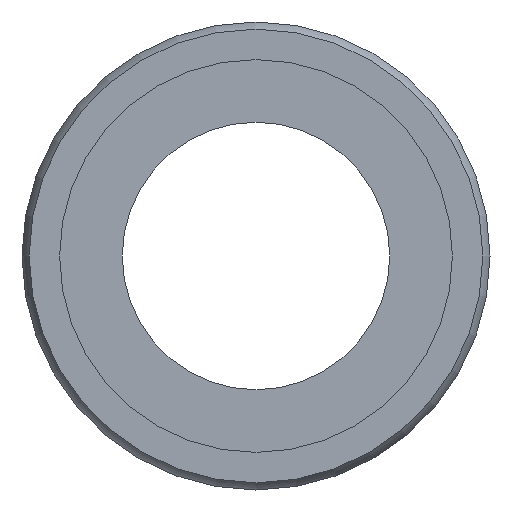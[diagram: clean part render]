
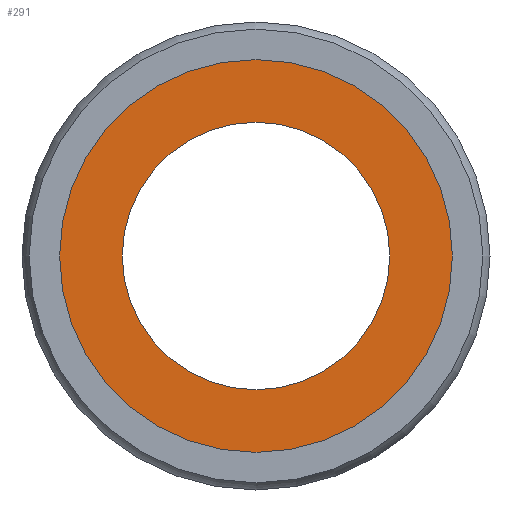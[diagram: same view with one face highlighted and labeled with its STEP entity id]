
A CAD part, left-side view. The second image highlights one B-rep face of the part: STEP entity #291.
In plain terms, the highlighted planar face has unit normal (-1, 0, 0).
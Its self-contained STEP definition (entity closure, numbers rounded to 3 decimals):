
#257=CARTESIAN_POINT('',(0.1,0.0,11.75));
#258=VERTEX_POINT('',#257);
#259=CARTESIAN_POINT('',(0.1,0.0,0.));
#260=DIRECTION('',(-1.0,0.0,0.0));
#261=DIRECTION('',(0.0,0.0,1.0));
#262=AXIS2_PLACEMENT_3D('',#259,#260,#261);
#263=CIRCLE('',#262,11.75);
#264=EDGE_CURVE('',#258,#258,#263,.T.);
#272=CARTESIAN_POINT('',(0.1,0.0,9.875));
#273=DIRECTION('',(-1.0,0.0,0.0));
#274=DIRECTION('',(0.0,0.0,1.0));
#275=AXIS2_PLACEMENT_3D('',#272,#273,#274);
#276=PLANE('',#275);
#277=ORIENTED_EDGE('',*,*,#264,.T.);
#278=EDGE_LOOP('',(#277));
#279=FACE_OUTER_BOUND('',#278,.T.);
#280=CARTESIAN_POINT('',(0.1,0.0,8.));
#281=VERTEX_POINT('',#280);
#282=CARTESIAN_POINT('',(0.1,0.0,0.));
#283=DIRECTION('',(-1.0,0.0,0.0));
#284=DIRECTION('',(0.0,0.0,1.0));
#285=AXIS2_PLACEMENT_3D('',#282,#283,#284);
#286=CIRCLE('',#285,8.);
#287=EDGE_CURVE('',#281,#281,#286,.T.);
#288=ORIENTED_EDGE('',*,*,#287,.F.);
#289=EDGE_LOOP('',(#288));
#290=FACE_BOUND('',#289,.T.);
#291=ADVANCED_FACE('',(#279,#290),#276,.T.);
